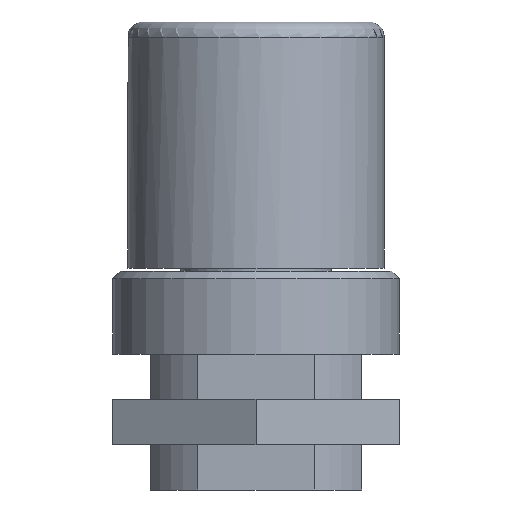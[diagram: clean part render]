
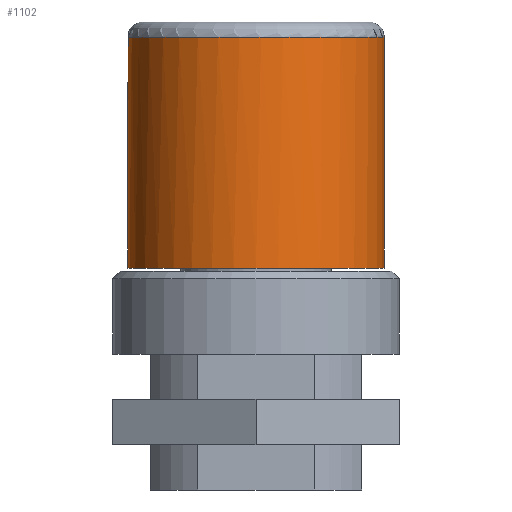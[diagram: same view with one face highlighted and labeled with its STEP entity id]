
A CAD part, left-side view. The second image highlights one B-rep face of the part: STEP entity #1102.
In plain terms, the highlighted cylindrical face has radius 8.5 mm (diameter 17 mm), a full revolution.
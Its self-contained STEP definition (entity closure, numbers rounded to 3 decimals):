
#136=LINE('',#1809,#215);
#149=LINE('',#1838,#228);
#215=VECTOR('',#1452,1000.);
#228=VECTOR('',#1471,1000.);
#450=ORIENTED_EDGE('',*,*,#630,.F.);
#451=ORIENTED_EDGE('',*,*,#675,.F.);
#452=ORIENTED_EDGE('',*,*,#645,.T.);
#453=ORIENTED_EDGE('',*,*,#663,.T.);
#454=ORIENTED_EDGE('',*,*,#676,.T.);
#630=EDGE_CURVE('',#769,#770,#136,.F.);
#645=EDGE_CURVE('',#783,#782,#149,.F.);
#663=EDGE_CURVE('',#782,#770,#844,.F.);
#675=EDGE_CURVE('',#783,#769,#846,.T.);
#676=EDGE_CURVE('',#796,#796,#847,.T.);
#769=VERTEX_POINT('',#1808);
#770=VERTEX_POINT('',#1810);
#782=VERTEX_POINT('',#1837);
#783=VERTEX_POINT('',#1839);
#796=VERTEX_POINT('',#1948);
#844=CIRCLE('',#1242,8.5);
#846=CIRCLE('',#1248,8.5);
#847=CIRCLE('',#1250,8.5);
#909=EDGE_LOOP('',(#450,#451,#452,#453));
#910=EDGE_LOOP('',(#454));
#996=FACE_BOUND('',#909,.T.);
#997=FACE_BOUND('',#910,.T.);
#1054=CYLINDRICAL_SURFACE('',#1252,8.5);
#1102=ADVANCED_FACE('',(#996,#997),#1054,.T.);
#1242=AXIS2_PLACEMENT_3D('',#1873,#1503,#1504);
#1248=AXIS2_PLACEMENT_3D('',#1945,#1515,#1516);
#1250=AXIS2_PLACEMENT_3D('',#1947,#1519,#1520);
#1252=AXIS2_PLACEMENT_3D('',#1951,#1523,#1524);
#1452=DIRECTION('',(0.,1.,0.));
#1471=DIRECTION('',(0.,1.,0.));
#1503=DIRECTION('',(0.,1.,0.));
#1504=DIRECTION('',(-1.,0.,0.));
#1515=DIRECTION('',(0.,1.,0.));
#1516=DIRECTION('',(0.,0.,1.));
#1519=DIRECTION('',(0.,1.,0.));
#1520=DIRECTION('',(0.,0.,1.));
#1523=DIRECTION('',(0.,1.,0.));
#1524=DIRECTION('',(0.,0.,1.));
#1808=CARTESIAN_POINT('',(6.874,15.3,5.));
#1809=CARTESIAN_POINT('',(6.874,16.3,5.));
#1810=CARTESIAN_POINT('',(6.874,1.3,5.));
#1837=CARTESIAN_POINT('',(6.874,1.3,-5.));
#1838=CARTESIAN_POINT('',(6.874,16.3,-5.));
#1839=CARTESIAN_POINT('',(6.874,15.3,-5.));
#1873=CARTESIAN_POINT('',(0.,1.3,0.));
#1945=CARTESIAN_POINT('',(0.,15.3,0.));
#1947=CARTESIAN_POINT('',(0.,0.,0.));
#1948=CARTESIAN_POINT('',(0.,0.,8.5));
#1951=CARTESIAN_POINT('',(0.,16.3,0.));
